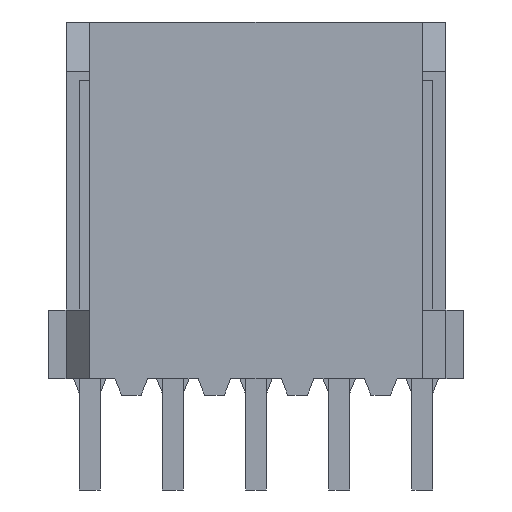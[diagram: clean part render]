
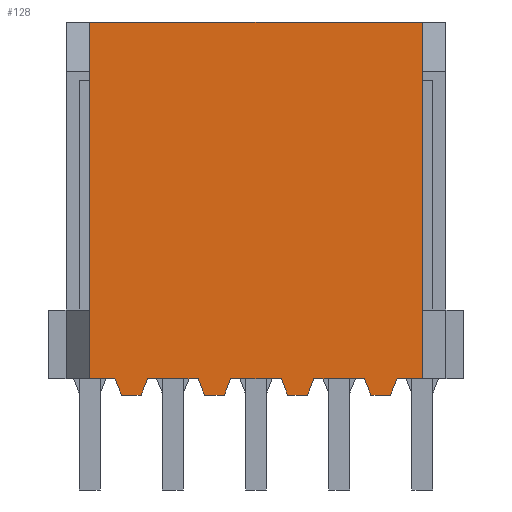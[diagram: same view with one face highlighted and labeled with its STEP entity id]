
A CAD part, front view. The second image highlights one B-rep face of the part: STEP entity #128.
In plain terms, the highlighted planar face has unit normal (0, -1, 0).
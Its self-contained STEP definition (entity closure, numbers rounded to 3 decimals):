
#128=ADVANCED_FACE('',(#437),#438,.T.);
#437=FACE_OUTER_BOUND('',#876,.T.);
#438=PLANE('',#877);
#876=EDGE_LOOP('',(#1901,#1902,#1903,#1904,#1905,#1906,#1907,#1908,#1909,#1910,#1911,#1912,#1913,#1914,#1915,#1916,#1917,#1918,#1919,#1920));
#877=AXIS2_PLACEMENT_3D('',#1921,#1922,#1923);
#1901=ORIENTED_EDGE('',*,*,#3264,.T.);
#1902=ORIENTED_EDGE('',*,*,#3147,.T.);
#1903=ORIENTED_EDGE('',*,*,#3265,.T.);
#1904=ORIENTED_EDGE('',*,*,#3266,.T.);
#1905=ORIENTED_EDGE('',*,*,#3267,.T.);
#1906=ORIENTED_EDGE('',*,*,#3120,.T.);
#1907=ORIENTED_EDGE('',*,*,#3268,.T.);
#1908=ORIENTED_EDGE('',*,*,#3269,.F.);
#1909=ORIENTED_EDGE('',*,*,#3263,.T.);
#1910=ORIENTED_EDGE('',*,*,#3116,.T.);
#1911=ORIENTED_EDGE('',*,*,#3270,.T.);
#1912=ORIENTED_EDGE('',*,*,#3271,.F.);
#1913=ORIENTED_EDGE('',*,*,#3272,.T.);
#1914=ORIENTED_EDGE('',*,*,#3112,.T.);
#1915=ORIENTED_EDGE('',*,*,#3273,.T.);
#1916=ORIENTED_EDGE('',*,*,#3274,.F.);
#1917=ORIENTED_EDGE('',*,*,#3275,.T.);
#1918=ORIENTED_EDGE('',*,*,#3108,.T.);
#1919=ORIENTED_EDGE('',*,*,#3276,.T.);
#1920=ORIENTED_EDGE('',*,*,#3277,.F.);
#1921=CARTESIAN_POINT('',(6.35,-2.5,-10.9));
#1922=DIRECTION('',(0.0,-1.0,0.0));
#1923=DIRECTION('',(0.0,0.0,-1.0));
#3108=EDGE_CURVE('',#3850,#3848,#3851,.T.);
#3112=EDGE_CURVE('',#3858,#3856,#3859,.T.);
#3116=EDGE_CURVE('',#3866,#3864,#3867,.T.);
#3120=EDGE_CURVE('',#3874,#3872,#3875,.T.);
#3147=EDGE_CURVE('',#3926,#3924,#3927,.T.);
#3263=EDGE_CURVE('',#4111,#3866,#4113,.T.);
#3264=EDGE_CURVE('',#4114,#3926,#4115,.T.);
#3265=EDGE_CURVE('',#3924,#4116,#4117,.T.);
#3266=EDGE_CURVE('',#4116,#4118,#4119,.T.);
#3267=EDGE_CURVE('',#4118,#3874,#4120,.T.);
#3268=EDGE_CURVE('',#3872,#4121,#4122,.T.);
#3269=EDGE_CURVE('',#4111,#4121,#4123,.T.);
#3270=EDGE_CURVE('',#3864,#4124,#4125,.T.);
#3271=EDGE_CURVE('',#4126,#4124,#4127,.T.);
#3272=EDGE_CURVE('',#4126,#3858,#4128,.T.);
#3273=EDGE_CURVE('',#3856,#4129,#4130,.T.);
#3274=EDGE_CURVE('',#4131,#4129,#4132,.T.);
#3275=EDGE_CURVE('',#4131,#3850,#4133,.T.);
#3276=EDGE_CURVE('',#3848,#4134,#4135,.T.);
#3277=EDGE_CURVE('',#4114,#4134,#4136,.T.);
#3848=VERTEX_POINT('',#4940);
#3850=VERTEX_POINT('',#4943);
#3851=LINE('',#4944,#4945);
#3856=VERTEX_POINT('',#4952);
#3858=VERTEX_POINT('',#4955);
#3859=LINE('',#4956,#4957);
#3864=VERTEX_POINT('',#4964);
#3866=VERTEX_POINT('',#4967);
#3867=LINE('',#4968,#4969);
#3872=VERTEX_POINT('',#4976);
#3874=VERTEX_POINT('',#4979);
#3875=LINE('',#4980,#4981);
#3924=VERTEX_POINT('',#5055);
#3926=VERTEX_POINT('',#5058);
#3927=LINE('',#5059,#5060);
#4111=VERTEX_POINT('',#5358);
#4113=LINE('',#5361,#5362);
#4114=VERTEX_POINT('',#5363);
#4115=LINE('',#5364,#5365);
#4116=VERTEX_POINT('',#5366);
#4117=LINE('',#5367,#5368);
#4118=VERTEX_POINT('',#5369);
#4119=LINE('',#5370,#5371);
#4120=LINE('',#5372,#5373);
#4121=VERTEX_POINT('',#5374);
#4122=LINE('',#5375,#5376);
#4123=LINE('',#5377,#5378);
#4124=VERTEX_POINT('',#5379);
#4125=LINE('',#5380,#5381);
#4126=VERTEX_POINT('',#5382);
#4127=LINE('',#5383,#5384);
#4128=LINE('',#5385,#5386);
#4129=VERTEX_POINT('',#5387);
#4130=LINE('',#5388,#5389);
#4131=VERTEX_POINT('',#5390);
#4132=LINE('',#5391,#5392);
#4133=LINE('',#5393,#5394);
#4134=VERTEX_POINT('',#5395);
#4135=LINE('',#5396,#5397);
#4136=LINE('',#5398,#5399);
#4940=CARTESIAN_POINT('',(3.31,-2.5,-10.9));
#4943=CARTESIAN_POINT('',(1.77,-2.5,-10.9));
#4944=CARTESIAN_POINT('',(1.77,-2.5,-10.9));
#4945=VECTOR('',#6196,1.54);
#4952=CARTESIAN_POINT('',(0.77,-2.5,-10.9));
#4955=CARTESIAN_POINT('',(-0.77,-2.5,-10.9));
#4956=CARTESIAN_POINT('',(-0.77,-2.5,-10.9));
#4957=VECTOR('',#6200,1.54);
#4964=CARTESIAN_POINT('',(-1.77,-2.5,-10.9));
#4967=CARTESIAN_POINT('',(-3.31,-2.5,-10.9));
#4968=CARTESIAN_POINT('',(-3.31,-2.5,-10.9));
#4969=VECTOR('',#6204,1.54);
#4976=CARTESIAN_POINT('',(-4.31,-2.5,-10.9));
#4979=CARTESIAN_POINT('',(-5.08,-2.5,-10.9));
#4980=CARTESIAN_POINT('',(-5.08,-2.5,-10.9));
#4981=VECTOR('',#6208,0.77);
#5055=CARTESIAN_POINT('',(5.08,-2.5,-10.9));
#5058=CARTESIAN_POINT('',(4.31,-2.5,-10.9));
#5059=CARTESIAN_POINT('',(4.31,-2.5,-10.9));
#5060=VECTOR('',#6235,0.77);
#5358=CARTESIAN_POINT('',(-3.51,-2.5,-11.4));
#5361=CARTESIAN_POINT('',(-3.51,-2.5,-11.4));
#5362=VECTOR('',#6351,0.539);
#5363=CARTESIAN_POINT('',(4.11,-2.5,-11.4));
#5364=CARTESIAN_POINT('',(4.11,-2.5,-11.4));
#5365=VECTOR('',#6352,0.539);
#5366=CARTESIAN_POINT('',(5.08,-2.5,0.0));
#5367=CARTESIAN_POINT('',(5.08,-2.5,-10.9));
#5368=VECTOR('',#6353,10.9);
#5369=CARTESIAN_POINT('',(-5.08,-2.5,0.0));
#5370=CARTESIAN_POINT('',(5.08,-2.5,0.0));
#5371=VECTOR('',#6354,10.16);
#5372=CARTESIAN_POINT('',(-5.08,-2.5,0.0));
#5373=VECTOR('',#6355,10.9);
#5374=CARTESIAN_POINT('',(-4.11,-2.5,-11.4));
#5375=CARTESIAN_POINT('',(-4.31,-2.5,-10.9));
#5376=VECTOR('',#6356,0.539);
#5377=CARTESIAN_POINT('',(-3.51,-2.5,-11.4));
#5378=VECTOR('',#6357,0.6);
#5379=CARTESIAN_POINT('',(-1.57,-2.5,-11.4));
#5380=CARTESIAN_POINT('',(-1.77,-2.5,-10.9));
#5381=VECTOR('',#6358,0.539);
#5382=CARTESIAN_POINT('',(-0.97,-2.5,-11.4));
#5383=CARTESIAN_POINT('',(-0.97,-2.5,-11.4));
#5384=VECTOR('',#6359,0.6);
#5385=CARTESIAN_POINT('',(-0.97,-2.5,-11.4));
#5386=VECTOR('',#6360,0.539);
#5387=CARTESIAN_POINT('',(0.97,-2.5,-11.4));
#5388=CARTESIAN_POINT('',(0.77,-2.5,-10.9));
#5389=VECTOR('',#6361,0.539);
#5390=CARTESIAN_POINT('',(1.57,-2.5,-11.4));
#5391=CARTESIAN_POINT('',(1.57,-2.5,-11.4));
#5392=VECTOR('',#6362,0.6);
#5393=CARTESIAN_POINT('',(1.57,-2.5,-11.4));
#5394=VECTOR('',#6363,0.539);
#5395=CARTESIAN_POINT('',(3.51,-2.5,-11.4));
#5396=CARTESIAN_POINT('',(3.31,-2.5,-10.9));
#5397=VECTOR('',#6364,0.539);
#5398=CARTESIAN_POINT('',(4.11,-2.5,-11.4));
#5399=VECTOR('',#6365,0.6);
#6196=DIRECTION('',(1.0,0.0,0.0));
#6200=DIRECTION('',(1.0,0.0,0.0));
#6204=DIRECTION('',(1.0,0.0,0.0));
#6208=DIRECTION('',(1.0,0.0,0.0));
#6235=DIRECTION('',(1.0,0.0,0.0));
#6351=DIRECTION('',(0.371,0.0,0.928));
#6352=DIRECTION('',(0.371,0.0,0.928));
#6353=DIRECTION('',(0.0,0.0,1.0));
#6354=DIRECTION('',(-1.0,0.0,0.0));
#6355=DIRECTION('',(0.0,0.0,-1.0));
#6356=DIRECTION('',(0.371,0.0,-0.928));
#6357=DIRECTION('',(-1.0,0.0,0.0));
#6358=DIRECTION('',(0.371,0.0,-0.928));
#6359=DIRECTION('',(-1.0,0.0,0.0));
#6360=DIRECTION('',(0.371,0.0,0.928));
#6361=DIRECTION('',(0.371,0.0,-0.928));
#6362=DIRECTION('',(-1.0,0.0,0.0));
#6363=DIRECTION('',(0.371,0.0,0.928));
#6364=DIRECTION('',(0.371,0.0,-0.928));
#6365=DIRECTION('',(-1.0,0.0,0.0));
